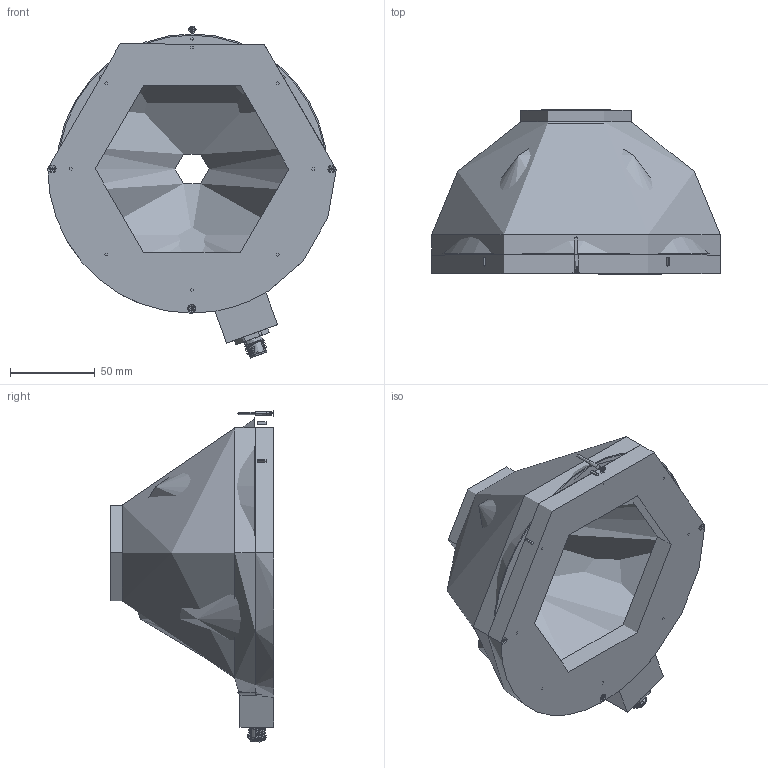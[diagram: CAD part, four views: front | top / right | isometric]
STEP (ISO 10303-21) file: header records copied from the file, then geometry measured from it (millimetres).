
FILE_DESCRIPTION(('STEP AP214'),'1');
FILE_NAME('Dome-170-Kundenmodell M12 8-Pol.stp','2019-05-22T10:13:55',(' '),(' '),'Spatial InterOp 3D',' ',' ');
FILE_SCHEMA(('AUTOMOTIVE_DESIGN { 1 0 10303 214 1 1 1 1 }'));
Length unit declared in the file: millimetre
Products named in the file (1): Volumenkörper
Bounding box: 170 x 96.54 x 195.62 mm (x, y, z)
Topology: 5 solids, 187 shells, 934 faces, 2193 edges, 1447 vertices
Faces by surface type: plane 359, cylinder 259, cone 152, bspline 100, torus 46, sphere 18
Full cylindrical faces by diameter (mm): 14.16 x1
Entity records: 47194 total; most frequent: CARTESIAN_POINT 16945, ORIENTED_EDGE 5030, DIRECTION 4331, EDGE_CURVE 2515, VERTEX_POINT 1659, AXIS2_PLACEMENT_3D 1549, LINE 1233, VECTOR 1233
